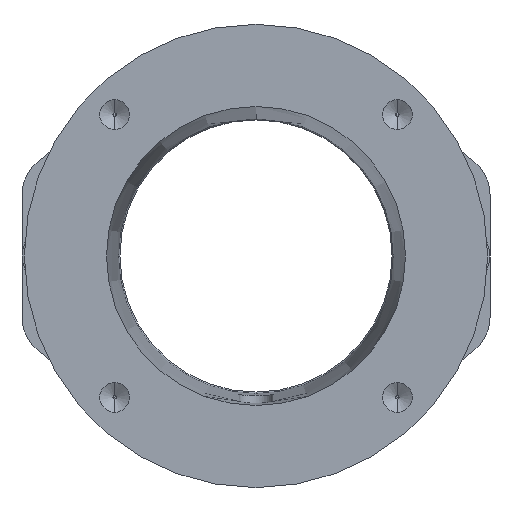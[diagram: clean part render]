
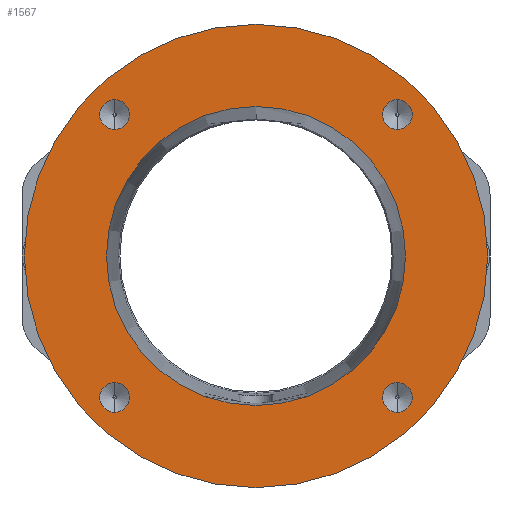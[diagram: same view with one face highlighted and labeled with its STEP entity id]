
A CAD part, front view. The second image highlights one B-rep face of the part: STEP entity #1567.
In plain terms, the highlighted planar face has unit normal (0, -1, 0).
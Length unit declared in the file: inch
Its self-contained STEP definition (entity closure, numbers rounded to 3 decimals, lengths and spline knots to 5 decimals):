
#66 = CARTESIAN_POINT ( 'NONE',  ( 2.07889, 0.34, -2.07889 ) ) ;
#68 = EDGE_LOOP ( 'NONE', ( #5029, #3854 ) ) ;
#100 = DIRECTION ( 'NONE',  ( 0., 0., -1. ) ) ;
#152 = CIRCLE ( 'NONE', #482, 0.21875 ) ;
#196 = CARTESIAN_POINT ( 'NONE',  ( 0., 0.34, 0. ) ) ;
#375 = CARTESIAN_POINT ( 'NONE',  ( 2.07889, 0.34, 2.07889 ) ) ;
#384 = ORIENTED_EDGE ( 'NONE', *, *, #3440, .T. ) ;
#396 = CARTESIAN_POINT ( 'NONE',  ( -2.07889, 0.34, -1.86014 ) ) ;
#417 = CIRCLE ( 'NONE', #2533, 3.405 ) ;
#482 = AXIS2_PLACEMENT_3D ( 'NONE', #375, #3599, #832 ) ;
#534 = DIRECTION ( 'NONE',  ( 0., 0., -1. ) ) ;
#584 = ORIENTED_EDGE ( 'NONE', *, *, #5586, .T. ) ;
#620 = AXIS2_PLACEMENT_3D ( 'NONE', #2491, #5709, #2957 ) ;
#626 = CIRCLE ( 'NONE', #5845, 0.21875 ) ;
#632 = ORIENTED_EDGE ( 'NONE', *, *, #5518, .T. ) ;
#649 = DIRECTION ( 'NONE',  ( 0., 0., -1. ) ) ;
#664 = ORIENTED_EDGE ( 'NONE', *, *, #4836, .F. ) ;
#673 = ORIENTED_EDGE ( 'NONE', *, *, #3070, .T. ) ;
#832 = DIRECTION ( 'NONE',  ( 0., 0., -1. ) ) ;
#835 = CARTESIAN_POINT ( 'NONE',  ( 2.07889, 0.34, -1.86014 ) ) ;
#860 = CIRCLE ( 'NONE', #5077, 0.21875 ) ;
#865 = ORIENTED_EDGE ( 'NONE', *, *, #5732, .F. ) ;
#933 = CARTESIAN_POINT ( 'NONE',  ( 0., 0.34, 0. ) ) ;
#1092 = CARTESIAN_POINT ( 'NONE',  ( 0., 0.34, 0. ) ) ;
#1163 = CARTESIAN_POINT ( 'NONE',  ( 2.07889, 0.34, -2.07889 ) ) ;
#1168 = CARTESIAN_POINT ( 'NONE',  ( -2.07889, 0.34, 2.29764 ) ) ;
#1242 = FACE_BOUND ( 'NONE', #2558, .T. ) ;
#1282 = DIRECTION ( 'NONE',  ( 0., 1., 0. ) ) ;
#1301 = DIRECTION ( 'NONE',  ( 0., 0., -1. ) ) ;
#1307 = DIRECTION ( 'NONE',  ( 0., 1., 0. ) ) ;
#1407 = DIRECTION ( 'NONE',  ( 0., 0., -1. ) ) ;
#1480 = CIRCLE ( 'NONE', #620, 0.21875 ) ;
#1564 = DIRECTION ( 'NONE',  ( 0., 0., -1. ) ) ;
#1566 = EDGE_CURVE ( 'NONE', #3339, #2604, #152, .T. ) ;
#1567 = ADVANCED_FACE ( 'NONE', ( #4885, #5972, #4914, #3691, #2467, #1242 ), #4505, .T. ) ;
#1580 = VERTEX_POINT ( 'NONE', #5455 ) ;
#1628 = DIRECTION ( 'NONE',  ( 0., 0., -1. ) ) ;
#1736 = AXIS2_PLACEMENT_3D ( 'NONE', #4056, #4072, #1301 ) ;
#1769 = EDGE_CURVE ( 'NONE', #2604, #3339, #2032, .T. ) ;
#1783 = VERTEX_POINT ( 'NONE', #835 ) ;
#1796 = AXIS2_PLACEMENT_3D ( 'NONE', #1092, #4324, #1564 ) ;
#2032 = CIRCLE ( 'NONE', #4506, 0.21875 ) ;
#2095 = DIRECTION ( 'NONE',  ( 0., 1., 0. ) ) ;
#2179 = ORIENTED_EDGE ( 'NONE', *, *, #5842, .T. ) ;
#2197 = ORIENTED_EDGE ( 'NONE', *, *, #4611, .T. ) ;
#2221 = CARTESIAN_POINT ( 'NONE',  ( 0., 0.34, 2.19771 ) ) ;
#2345 = VERTEX_POINT ( 'NONE', #1168 ) ;
#2383 = CIRCLE ( 'NONE', #2619, 2.19771 ) ;
#2467 = FACE_OUTER_BOUND ( 'NONE', #4795, .T. ) ;
#2491 = CARTESIAN_POINT ( 'NONE',  ( -2.07889, 0.34, 2.07889 ) ) ;
#2506 = DIRECTION ( 'NONE',  ( 0., 1., 0. ) ) ;
#2528 = CARTESIAN_POINT ( 'NONE',  ( 0., 0.34, -3.405 ) ) ;
#2533 = AXIS2_PLACEMENT_3D ( 'NONE', #5260, #2506, #5724 ) ;
#2558 = EDGE_LOOP ( 'NONE', ( #673, #632 ) ) ;
#2604 = VERTEX_POINT ( 'NONE', #4792 ) ;
#2619 = AXIS2_PLACEMENT_3D ( 'NONE', #933, #4168, #1407 ) ;
#2710 = EDGE_LOOP ( 'NONE', ( #584, #4020 ) ) ;
#2878 = DIRECTION ( 'NONE',  ( 0., 1., 0. ) ) ;
#2910 = VERTEX_POINT ( 'NONE', #396 ) ;
#2957 = DIRECTION ( 'NONE',  ( 0., 0., -1. ) ) ;
#3007 = CIRCLE ( 'NONE', #4148, 0.21875 ) ;
#3029 = CARTESIAN_POINT ( 'NONE',  ( 0., 0.34, 3.405 ) ) ;
#3070 = EDGE_CURVE ( 'NONE', #5434, #3987, #5096, .T. ) ;
#3147 = AXIS2_PLACEMENT_3D ( 'NONE', #1163, #4391, #1628 ) ;
#3156 = CARTESIAN_POINT ( 'NONE',  ( 2.07889, 0.34, 1.86014 ) ) ;
#3293 = DIRECTION ( 'NONE',  ( 0., 1., 0. ) ) ;
#3339 = VERTEX_POINT ( 'NONE', #3156 ) ;
#3361 = EDGE_CURVE ( 'NONE', #2345, #1580, #3007, .T. ) ;
#3409 = DIRECTION ( 'NONE',  ( 0., 1., 0. ) ) ;
#3440 = EDGE_CURVE ( 'NONE', #1580, #2345, #1480, .T. ) ;
#3504 = CARTESIAN_POINT ( 'NONE',  ( -2.07889, 0.34, -2.29764 ) ) ;
#3599 = DIRECTION ( 'NONE',  ( 0., 1., 0. ) ) ;
#3678 = CIRCLE ( 'NONE', #4690, 3.405 ) ;
#3691 = FACE_BOUND ( 'NONE', #2710, .T. ) ;
#3854 = ORIENTED_EDGE ( 'NONE', *, *, #1769, .T. ) ;
#3862 = VERTEX_POINT ( 'NONE', #3504 ) ;
#3987 = VERTEX_POINT ( 'NONE', #2221 ) ;
#4020 = ORIENTED_EDGE ( 'NONE', *, *, #4852, .T. ) ;
#4050 = CARTESIAN_POINT ( 'NONE',  ( -2.07889, 0.34, -2.07889 ) ) ;
#4056 = CARTESIAN_POINT ( 'NONE',  ( 0., 0.34, 0. ) ) ;
#4072 = DIRECTION ( 'NONE',  ( 0., -1., 0. ) ) ;
#4077 = CARTESIAN_POINT ( 'NONE',  ( 2.07889, 0.34, 2.07889 ) ) ;
#4148 = AXIS2_PLACEMENT_3D ( 'NONE', #5633, #2878, #100 ) ;
#4168 = DIRECTION ( 'NONE',  ( 0., 1., 0. ) ) ;
#4324 = DIRECTION ( 'NONE',  ( 0., 1., 0. ) ) ;
#4391 = DIRECTION ( 'NONE',  ( 0., 1., 0. ) ) ;
#4481 = VERTEX_POINT ( 'NONE', #2528 ) ;
#4502 = DIRECTION ( 'NONE',  ( 0., 0., -1. ) ) ;
#4505 = PLANE ( 'NONE',  #1736 ) ;
#4506 = AXIS2_PLACEMENT_3D ( 'NONE', #4077, #1307, #4526 ) ;
#4526 = DIRECTION ( 'NONE',  ( 0., 0., -1. ) ) ;
#4559 = CARTESIAN_POINT ( 'NONE',  ( 2.07889, 0.34, -2.29764 ) ) ;
#4564 = VERTEX_POINT ( 'NONE', #3029 ) ;
#4611 = EDGE_CURVE ( 'NONE', #3862, #2910, #626, .T. ) ;
#4613 = CIRCLE ( 'NONE', #5617, 0.21875 ) ;
#4690 = AXIS2_PLACEMENT_3D ( 'NONE', #196, #3409, #649 ) ;
#4694 = VERTEX_POINT ( 'NONE', #4559 ) ;
#4792 = CARTESIAN_POINT ( 'NONE',  ( 2.07889, 0.34, 2.29764 ) ) ;
#4795 = EDGE_LOOP ( 'NONE', ( #664, #865 ) ) ;
#4836 = EDGE_CURVE ( 'NONE', #4481, #4564, #417, .T. ) ;
#4852 = EDGE_CURVE ( 'NONE', #1783, #4694, #5172, .T. ) ;
#4855 = CARTESIAN_POINT ( 'NONE',  ( -2.07889, 0.34, -2.07889 ) ) ;
#4885 = FACE_BOUND ( 'NONE', #5378, .T. ) ;
#4914 = FACE_BOUND ( 'NONE', #5752, .T. ) ;
#5014 = CARTESIAN_POINT ( 'NONE',  ( 0., 0.34, -2.19771 ) ) ;
#5029 = ORIENTED_EDGE ( 'NONE', *, *, #1566, .T. ) ;
#5077 = AXIS2_PLACEMENT_3D ( 'NONE', #66, #3293, #534 ) ;
#5096 = CIRCLE ( 'NONE', #1796, 2.19771 ) ;
#5172 = CIRCLE ( 'NONE', #3147, 0.21875 ) ;
#5260 = CARTESIAN_POINT ( 'NONE',  ( 0., 0.34, 0. ) ) ;
#5319 = DIRECTION ( 'NONE',  ( 0., 0., -1. ) ) ;
#5378 = EDGE_LOOP ( 'NONE', ( #2197, #2179 ) ) ;
#5434 = VERTEX_POINT ( 'NONE', #5014 ) ;
#5455 = CARTESIAN_POINT ( 'NONE',  ( -2.07889, 0.34, 1.86014 ) ) ;
#5518 = EDGE_CURVE ( 'NONE', #3987, #5434, #2383, .T. ) ;
#5574 = ORIENTED_EDGE ( 'NONE', *, *, #3361, .T. ) ;
#5586 = EDGE_CURVE ( 'NONE', #4694, #1783, #860, .T. ) ;
#5617 = AXIS2_PLACEMENT_3D ( 'NONE', #4855, #2095, #5319 ) ;
#5633 = CARTESIAN_POINT ( 'NONE',  ( -2.07889, 0.34, 2.07889 ) ) ;
#5709 = DIRECTION ( 'NONE',  ( 0., 1., 0. ) ) ;
#5724 = DIRECTION ( 'NONE',  ( 0., 0., -1. ) ) ;
#5732 = EDGE_CURVE ( 'NONE', #4564, #4481, #3678, .T. ) ;
#5752 = EDGE_LOOP ( 'NONE', ( #384, #5574 ) ) ;
#5842 = EDGE_CURVE ( 'NONE', #2910, #3862, #4613, .T. ) ;
#5845 = AXIS2_PLACEMENT_3D ( 'NONE', #4050, #1282, #4502 ) ;
#5972 = FACE_BOUND ( 'NONE', #68, .T. ) ;
